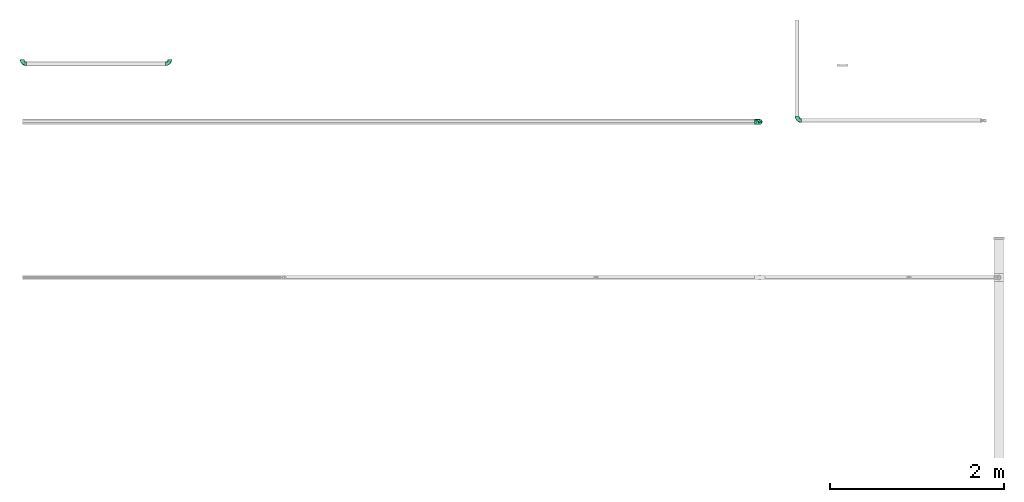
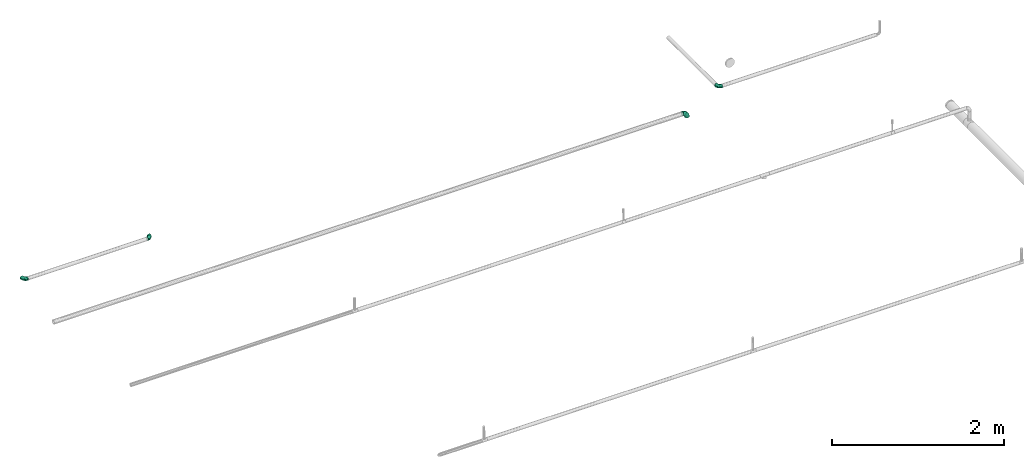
# One storey, part 7 of 14: 4 flow fittings.
"""IFC2X3 building model written with IfcOpenShell, lengths in millimetres."""

from ifc_helpers import new_model, entity, si_unit, converted_unit, derived_unit, direction, frame, origin_with_axes, place, context, subcontext, project, spatial, open_shell, surface_model, source, transform, mapped, type_object, element, save


model = new_model("IFC2X3")

# Units and contexts
model_context = context("Model", 3, precision=0.01, world=frame((0.0, 4.29681676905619e-09, 0.0)), true_north=direction((4.01073788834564e-13, 1.0)))
plan_context = context("Plan", 3, precision=0.01, world=frame((0.0, 4.29681676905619e-09, 0.0)), true_north=direction((4.01073788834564e-13, 1.0)))
body_context = subcontext(model_context, "Body", "Model", "MODEL_VIEW")
ifc_project = project(units=[converted_unit("PLANEANGLEUNIT", "DEGREE", entity("IfcPositiveLengthMeasure", 0.0174532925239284), si_unit("PLANEANGLEUNIT", "RADIAN"), dimensions=[0, 0, 0, 0, 0, 0, 0]), si_unit("AREAUNIT", "SQUARE_METRE"), si_unit("LENGTHUNIT", "METRE", prefix="MILLI"), si_unit("MASSUNIT", "GRAM", prefix="KILO"), si_unit("POWERUNIT", "WATT"), si_unit("PRESSUREUNIT", "PASCAL"), si_unit("FORCEUNIT", "NEWTON", prefix="KILO"), si_unit("ELECTRICVOLTAGEUNIT", "VOLT"), si_unit("ELECTRICCURRENTUNIT", "AMPERE"), si_unit("THERMODYNAMICTEMPERATUREUNIT", "DEGREE_CELSIUS"), si_unit("TIMEUNIT", "SECOND"), si_unit("VOLUMEUNIT", "CUBIC_METRE"), derived_unit("LINEARVELOCITYUNIT", [(si_unit("LENGTHUNIT", "METRE"), 1), (si_unit("TIMEUNIT", "SECOND"), -1)]), derived_unit("VOLUMETRICFLOWRATEUNIT", [(si_unit("VOLUMEUNIT", "CUBIC_METRE"), 1), (si_unit("TIMEUNIT", "SECOND"), -1)]), derived_unit("THERMALTRANSMITTANCEUNIT", [(si_unit("POWERUNIT", "WATT"), 1), (si_unit("THERMODYNAMICTEMPERATUREUNIT", "KELVIN"), -1), (si_unit("AREAUNIT", "SQUARE_METRE"), -1)]), derived_unit("SOUNDPRESSUREUNIT", [(si_unit("PRESSUREUNIT", "PASCAL"), 1)])], contexts=[model_context, plan_context])

# Site, building, storey
site_placement = place(None, frame((0.0, -4.29681676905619e-09, 0.0), z_axis=(0.0, 0.0, 1.0), x_axis=(1.0, 0.0, 0.0)))
site = spatial("IfcSite", under=ifc_project, at=site_placement, CompositionType="ELEMENT")
building_placement = place(site_placement, frame((0.0, 4.29681676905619e-09, 0.0), z_axis=(0.0, 0.0, 1.0), x_axis=(1.0, 0.0, 0.0)))
building = spatial("IfcBuilding", under=site, at=building_placement, Name="mc-building", CompositionType="ELEMENT")
storey_placement = place(building_placement, frame((0.0, 0.0, 204000.0), z_axis=(0.0, 0.0, 1.0), x_axis=(1.0, 0.0, 0.0)))
storey = spatial("IfcBuildingStorey", under=building, at=storey_placement, Name="Nivå D", CompositionType="ELEMENT", Elevation=204000.0)

# Flow fittings
pipe_fitting_type = type_object("IfcPipeFittingType", Name="magi_pipe_fe_elbow_short_001", PredefinedType="BEND")
shared_shape_1 = source(origin_with_axes(), body_context, "Body", "SurfaceModel", [
    surface_model("IfcShellBasedSurfaceModel", [(-48.4, 6.26342, -23.37541), (-48.4, 0.0, -24.2), (-48.4, 17.11198, -17.11198), (-48.4, 12.1, -20.95781), (-48.4, 23.37541, -6.26342), (-48.4, 20.95781, -12.1), (-48.4, -12.1, -20.95781), (-48.4, -17.11198, -17.11198), (-48.4, -20.95781, -12.1), (-48.4, -6.26342, -23.37541), (-48.4, -23.37541, -6.26342), (-48.4, -24.2, 0.0), (-48.4, -23.37541, 6.26342), (-48.4, 23.37541, 6.26342), (-48.4, 6.26342, 23.37541), (-48.4, 20.95781, 12.1), (-48.4, 17.11198, 17.11198), (-48.4, 12.1, 20.95781), (-48.4, -12.1, 20.95781), (-48.4, -20.95781, 12.1), (-48.4, -17.11198, 17.11198), (-48.4, -6.26342, 23.37541), (-48.4, 0.0, 24.2), (-48.4, 24.2, 0.0), (-17.11198, 48.4, -17.11198), (0.0, 48.4, -24.2), (-6.26342, 48.4, -23.37541), (-12.1, 48.4, -20.95781), (-20.95781, 48.4, -12.1), (-23.37541, 48.4, -6.26342), (12.1, 48.4, -20.95781), (20.95781, 48.4, -12.1), (17.11198, 48.4, -17.11198), (6.26342, 48.4, -23.37541), (23.37541, 48.4, -6.26342), (23.37541, 48.4, 6.26342), (24.2, 48.4, 0.0), (-23.37541, 48.4, 6.26342), (-6.26342, 48.4, 23.37541), (-17.11198, 48.4, 17.11198), (-20.95781, 48.4, 12.1), (-12.1, 48.4, 20.95781), (12.1, 48.4, 20.95781), (17.11198, 48.4, 17.11198), (20.95781, 48.4, 12.1), (0.0, 48.4, 24.2), (6.26342, 48.4, 23.37541), (-24.2, 48.4, 0.0), (-35.50368, -18.80076, 13.58523), (-31.77913, -13.9618, 18.03279), (-34.50859, -21.43683, 0.0), (-21.39243, -15.41147, 12.21413), (-32.16301, -21.12203, 7.54749), (21.12203, 32.16301, 7.54749), (17.07617, 18.95745, 6.20374), (18.67365, 20.61718, 0.0), (-23.65565, 38.62451, 10.51816), (-20.21592, 37.67665, 15.89859), (-35.56981, -9.15108, 21.77256), (-36.96985, -3.20584, 23.78612), (-33.88786, 3.70953, 24.15875), (-8.84062, -10.8048, 0.0), (-18.95745, -17.07617, 6.20374), (-20.61718, -18.67365, 0.0), (-18.69715, -5.87343, 20.10488), (-24.09336, -0.21717, 23.45593), (-2.08262, -4.09091, 10.90396), (-0.40561, 0.49936, 14.45569), (-8.22634, -5.79523, 14.90978), (-37.83027, 20.17367, 15.88169), (-8.41063, 23.79825, 24.15658), (-17.92529, 17.92529, 23.61199), (-14.40991, 10.5752, 24.07534), (-41.86919, 14.6551, 19.71874), (-9.03342, 41.7434, 22.66763), (-3.31671, 36.19978, 24.14056), (-38.63654, 23.65174, 10.51655), (-38.25939, 25.77657, 5.32075), (-30.0475, 30.0475, 9.04616), (-37.30448, 9.49113, 22.86036), (-6.31688, 16.20853, 23.76192), (-12.02449, 4.43954, 22.59792), (-2.47225, 13.07459, 22.23951), (-4.32281, 4.32281, 19.78555), (13.9618, 31.77913, 18.03279), (15.41147, 21.39243, 12.21413), (18.80076, 35.50367, 13.58523), (-25.72741, 16.42033, 22.38358), (-26.59277, 10.36599, 23.76692), (3.20584, 36.96985, 23.78612), (9.15107, 35.56981, 21.77256), (5.87343, 18.69715, 20.10488), (21.43683, 34.50859, 0.0), (-23.74657, 5.93004, 24.18967), (-22.40302, 25.55556, 19.88516), (-33.3245, 16.42738, 20.3789), (-25.47357, 39.04012, 5.19167), (-30.32947, 31.74105, 4.25904), (11.04589, 19.60124, 16.55181), (-27.44219, 36.3, 0.0), (-10.46605, 32.79159, 23.04712), (-13.80953, 25.05111, 23.26361), (-17.54489, 31.27863, 20.33941), (-19.27982, 23.42922, 22.01925), (-14.78447, 40.57947, 19.81913), (-19.60124, -11.04589, 16.55181), (-25.09785, 32.07921, 13.69695), (-25.5093, 27.02629, 17.14196), (-31.08127, 26.00324, 13.49448), (0.21717, 24.09336, 23.45593), (5.51075, 8.40547, 15.32867), (-11.48597, -10.80284, 11.35932), (1.43689, -3.14326, 6.54995), (7.34882, 4.31024, 8.4514), (7.50574, 2.51208, 3.62663), (12.46453, 10.09451, 5.71609), (12.1504, 12.55391, 10.15678), (-36.3, 27.44219, 0.0), (-6.52237, -9.62364, 7.02633), (2.93595, -2.93595, 0.0), (10.8048, 8.84062, 0.0), (-19.60124, -11.04589, -16.55181), (-31.77913, -13.9618, -18.03279), (-18.69715, -5.87343, -20.10488), (-21.39243, -15.41147, -12.21413), (-37.67665, 20.21591, -15.89859), (-40.57947, 14.78447, -19.81913), (-39.04012, 25.47357, -5.19167), (-32.16301, -21.12203, -7.54749), (-30.0475, 30.0475, -9.04616), (-38.62452, 23.65565, -10.51816), (-18.95745, -17.07617, -6.20374), (-23.42922, 19.27982, -22.01926), (-25.05111, 13.80953, -23.26361), (-31.27863, 17.54489, -20.33941), (-14.6551, 41.86919, -19.71874), (-20.17367, 37.83026, -15.88169), (9.15108, 35.56981, -21.77256), (5.87343, 18.69715, -20.10488), (0.21717, 24.09336, -23.45593), (-41.7434, 9.03342, -22.66763), (-35.50368, -18.80076, -13.58523), (-35.56981, -9.15108, -21.77256), (-16.42033, 25.72741, -22.38358), (-9.49113, 37.30447, -22.86036), (-10.36599, 26.59277, -23.76692), (-36.96985, -3.20584, -23.78612), (-23.79826, 8.41063, -24.15658), (-17.92529, 17.92529, -23.61199), (-10.5752, 14.40991, -24.07534), (-36.19978, 3.31671, -24.14056), (-25.77657, 38.25939, -5.32075), (-23.65174, 38.63654, -10.51655), (-32.79159, 10.46605, -23.04712), (-31.74105, 30.32946, -4.25904), (-5.93004, 23.74657, -24.18967), (-25.55556, 22.40302, -19.88516), (-16.42738, 33.3245, -20.3789), (3.20584, 36.96985, -23.78612), (-3.70953, 33.88785, -24.15875), (18.80076, 35.50367, -13.58523), (13.9618, 31.77913, -18.03279), (7.50574, 2.51208, -3.62663), (12.46453, 10.09451, -5.71609), (-16.20853, 6.31688, -23.76192), (-4.43954, 12.02449, -22.59792), (-13.07459, 2.47225, -22.23951), (15.41147, 21.39243, -12.21413), (21.12203, 32.16301, -7.54749), (17.07617, 18.95745, -6.20374), (-32.07921, 25.09785, -13.69695), (11.04589, 19.60124, -16.55181), (12.1504, 12.55391, -10.15678), (5.51075, 8.40547, -15.32867), (-27.02629, 25.5093, -17.14196), (-26.00324, 31.08127, -13.49448), (-24.09336, -0.21717, -23.45593), (-4.32281, 4.32281, -19.78555), (-8.22634, -5.79524, -14.90978), (-11.48597, -10.80284, -11.35931), (-0.40561, 0.49936, -14.45569), (-6.52237, -9.62364, -7.02632), (-2.08262, -4.09091, -10.90396), (7.34882, 4.31024, -8.4514), (1.43689, -3.14326, -6.54994)], [open_shell([[[0, 1, 2]], [[3, 0, 2]], [[4, 5, 2]], [[6, 2, 1]], [[4, 2, 6]], [[7, 8, 6]], [[1, 9, 6]], [[8, 10, 6]], [[6, 10, 4]], [[11, 12, 10]], [[13, 4, 10]], [[14, 13, 10]], [[15, 13, 16]], [[13, 14, 17]], [[16, 13, 17]], [[10, 18, 14]], [[19, 20, 12]], [[20, 10, 12]], [[21, 22, 18]], [[20, 18, 10]], [[18, 22, 14]], [[23, 4, 13]], [[24, 25, 26]], [[24, 26, 27]], [[24, 28, 29]], [[25, 24, 30]], [[30, 24, 29]], [[30, 31, 32]], [[30, 33, 25]], [[30, 34, 31]], [[29, 34, 30]], [[34, 35, 36]], [[34, 29, 37]], [[34, 37, 38]], [[39, 37, 40]], [[41, 38, 37]], [[41, 37, 39]], [[38, 42, 34]], [[35, 43, 44]], [[35, 34, 43]], [[42, 45, 46]], [[34, 42, 43]], [[38, 45, 42]], [[37, 29, 47]], [[20, 48, 49]], [[12, 11, 50]], [[51, 48, 52]], [[53, 54, 55]], [[48, 20, 19]], [[12, 52, 19]], [[40, 56, 57]], [[49, 18, 20]], [[49, 58, 18]], [[22, 59, 60]], [[61, 62, 63]], [[58, 64, 65]], [[66, 67, 68]], [[15, 16, 69]], [[70, 71, 72]], [[17, 73, 16]], [[21, 59, 22]], [[38, 74, 75]], [[22, 60, 14]], [[15, 69, 76]], [[16, 73, 69]], [[23, 13, 77]], [[13, 15, 76]], [[77, 76, 78]], [[14, 79, 17]], [[80, 81, 82]], [[68, 83, 64]], [[84, 43, 42]], [[85, 86, 84]], [[87, 79, 88]], [[18, 58, 21]], [[45, 89, 46]], [[53, 35, 44]], [[45, 38, 75]], [[84, 90, 91]], [[44, 86, 53]], [[92, 35, 53]], [[86, 44, 43]], [[90, 42, 46]], [[53, 55, 92]], [[88, 93, 72]], [[54, 53, 85]], [[87, 94, 95]], [[78, 96, 97]], [[98, 84, 91]], [[99, 96, 47]], [[79, 14, 60]], [[96, 78, 56]], [[62, 52, 63]], [[57, 39, 40]], [[100, 70, 75]], [[101, 102, 103]], [[12, 50, 52]], [[104, 41, 39]], [[74, 38, 41]], [[57, 102, 104]], [[105, 64, 49]], [[90, 84, 42]], [[40, 37, 56]], [[56, 106, 57]], [[102, 57, 107]], [[95, 107, 69]], [[76, 108, 78]], [[100, 101, 70]], [[89, 75, 109]], [[64, 58, 49]], [[63, 52, 50]], [[59, 58, 65]], [[105, 49, 51]], [[64, 83, 81]], [[89, 90, 46]], [[36, 35, 92]], [[109, 82, 91]], [[109, 91, 90]], [[91, 83, 110]], [[111, 68, 105]], [[66, 68, 111]], [[62, 51, 52]], [[66, 112, 113]], [[114, 115, 113]], [[98, 85, 84]], [[52, 48, 19]], [[49, 48, 51]], [[84, 86, 43]], [[53, 86, 85]], [[88, 79, 60]], [[73, 79, 95]], [[96, 56, 37]], [[78, 108, 106]], [[87, 103, 94]], [[100, 74, 104]], [[108, 69, 107]], [[78, 97, 77]], [[88, 72, 71]], [[109, 75, 70]], [[81, 72, 65]], [[70, 72, 80]], [[75, 89, 45]], [[90, 89, 109]], [[58, 59, 21]], [[60, 59, 65]], [[67, 83, 68]], [[110, 113, 116]], [[88, 60, 93]], [[87, 88, 71]], [[103, 87, 71]], [[79, 87, 95]], [[101, 103, 71]], [[94, 103, 102]], [[47, 96, 37]], [[96, 99, 97]], [[99, 117, 97]], [[97, 117, 77]], [[23, 77, 117]], [[13, 76, 77]], [[60, 65, 93]], [[65, 72, 93]], [[70, 101, 71]], [[102, 101, 100]], [[69, 108, 76]], [[106, 108, 107]], [[57, 106, 107]], [[78, 106, 56]], [[57, 104, 39]], [[100, 104, 102]], [[102, 107, 94]], [[95, 94, 107]], [[64, 81, 65]], [[82, 81, 83]], [[91, 82, 83]], [[80, 82, 109]], [[70, 80, 109]], [[81, 80, 72]], [[79, 73, 17]], [[69, 73, 95]], [[104, 74, 41]], [[75, 74, 100]], [[62, 61, 118]], [[111, 62, 118]], [[113, 115, 116]], [[119, 118, 61]], [[111, 105, 51]], [[113, 112, 114]], [[120, 55, 54]], [[68, 64, 105]], [[91, 110, 98]], [[116, 98, 110]], [[62, 111, 51]], [[66, 111, 118]], [[112, 66, 118]], [[67, 113, 110]], [[118, 119, 112]], [[114, 112, 119]], [[119, 120, 114]], [[115, 120, 54]], [[120, 115, 114]], [[116, 54, 85]], [[54, 116, 115]], [[116, 85, 98]], [[113, 67, 66]], [[83, 67, 110]], [[121, 122, 123]], [[122, 121, 124]], [[5, 125, 2]], [[2, 126, 3]], [[117, 127, 23]], [[50, 10, 128]], [[127, 129, 130]], [[128, 131, 63]], [[132, 133, 134]], [[24, 135, 136]], [[137, 138, 139]], [[3, 140, 0]], [[128, 8, 141]], [[142, 6, 9]], [[128, 63, 50]], [[5, 4, 130]], [[8, 7, 141]], [[143, 144, 145]], [[146, 9, 1]], [[147, 148, 149]], [[8, 128, 10]], [[124, 141, 122]], [[150, 1, 0]], [[151, 152, 129]], [[125, 134, 126]], [[153, 147, 150]], [[127, 154, 129]], [[145, 155, 149]], [[47, 29, 151]], [[143, 156, 157]], [[152, 29, 28]], [[25, 158, 159]], [[122, 7, 6]], [[24, 27, 135]], [[144, 27, 26]], [[32, 160, 161]], [[25, 33, 158]], [[120, 162, 163]], [[130, 125, 5]], [[24, 136, 28]], [[0, 140, 150]], [[30, 161, 137]], [[142, 122, 6]], [[25, 159, 26]], [[164, 165, 166]], [[31, 160, 32]], [[161, 30, 32]], [[167, 160, 168]], [[131, 128, 124]], [[36, 92, 34]], [[34, 92, 168]], [[169, 168, 55]], [[34, 168, 31]], [[144, 26, 159]], [[130, 170, 125]], [[171, 172, 173]], [[136, 152, 28]], [[30, 137, 33]], [[122, 142, 123]], [[134, 125, 174]], [[157, 174, 136]], [[152, 175, 129]], [[153, 133, 147]], [[146, 150, 176]], [[146, 142, 9]], [[11, 10, 50]], [[176, 166, 123]], [[176, 123, 142]], [[123, 177, 178]], [[138, 137, 161]], [[55, 168, 92]], [[158, 137, 139]], [[171, 161, 167]], [[138, 177, 165]], [[177, 138, 173]], [[124, 121, 179]], [[173, 180, 177]], [[61, 131, 181]], [[182, 181, 179]], [[169, 167, 168]], [[122, 141, 7]], [[128, 141, 124]], [[168, 160, 31]], [[161, 160, 167]], [[145, 144, 159]], [[135, 144, 157]], [[127, 130, 4]], [[129, 175, 170]], [[143, 132, 156]], [[153, 140, 126]], [[175, 136, 174]], [[129, 154, 151]], [[145, 149, 148]], [[176, 150, 147]], [[165, 149, 139]], [[147, 149, 164]], [[150, 146, 1]], [[142, 146, 176]], [[137, 158, 33]], [[159, 158, 139]], [[171, 138, 161]], [[183, 182, 180]], [[145, 159, 155]], [[143, 145, 148]], [[132, 143, 148]], [[144, 143, 157]], [[133, 132, 148]], [[156, 132, 134]], [[23, 127, 4]], [[127, 117, 154]], [[117, 99, 154]], [[154, 99, 151]], [[47, 151, 99]], [[29, 152, 151]], [[159, 139, 155]], [[139, 149, 155]], [[147, 133, 148]], [[134, 133, 153]], [[136, 175, 152]], [[170, 175, 174]], [[125, 170, 174]], [[129, 170, 130]], [[125, 126, 2]], [[153, 126, 134]], [[134, 174, 156]], [[157, 156, 174]], [[138, 165, 139]], [[166, 165, 177]], [[123, 166, 177]], [[164, 166, 176]], [[147, 164, 176]], [[165, 164, 149]], [[144, 135, 27]], [[136, 135, 157]], [[126, 140, 3]], [[150, 140, 153]], [[179, 131, 124]], [[181, 119, 61]], [[63, 131, 61]], [[169, 163, 172]], [[169, 55, 120]], [[123, 178, 121]], [[179, 121, 178]], [[172, 171, 167]], [[173, 138, 171]], [[182, 179, 178]], [[131, 179, 181]], [[180, 182, 178]], [[163, 162, 183]], [[120, 119, 162]], [[172, 163, 183]], [[120, 163, 169]], [[173, 172, 183]], [[169, 172, 167]], [[177, 180, 178]], [[183, 180, 173]], [[184, 181, 182]], [[184, 182, 183]], [[119, 181, 184]], [[119, 184, 162]], [[162, 184, 183]]])]),
])
for number, where, z_axis, x_axis, name in (
    (1, (597993.8, 699262.46783, 6142.65517000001), (0.0, 0.0, 1.0), (0.0, -1.0, 0.0), "magi_pipe_fe_elbow_short_001"),
    (2, (599693.8, 699262.46783, 6142.65517000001), (0.0, 0.0, 1.0), (1.0, 0.0, 0.0), "magi_pipe_fe_elbow_short_001"),
    (3, (606912.81082, 698608.74775, 6142.66949), (-9.999999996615e-07, -2.5999999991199e-05, 0.9999999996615), (-1.999999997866e-12, -0.999999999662, -2.5999999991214e-05), "magi_pipe_fe_elbow_short_001"),
):
    element("IfcFlowFitting", number, at=place(storey_placement, frame(where, z_axis=z_axis, x_axis=x_axis)), inside=storey, type_object=pipe_fitting_type, Name=name, context=body_context, shape_type="MappedRepresentation", body=[
        mapped(shared_shape_1, transform((0.0, 0.0, 0.0), scale=1.0)),
    ])
shared_shape_2 = source(origin_with_axes(), body_context, "Body", "SurfaceModel", [
    surface_model("IfcShellBasedSurfaceModel", [(-60.4, 15.1, -26.15397), (-60.4, 7.81634, -29.17096), (-60.4, 0.0, -30.2), (-60.4, -21.35462, -21.35462), (-60.4, 26.15397, -15.1), (-60.4, 21.35462, -21.35462), (-60.4, 29.17096, -7.81634), (-60.4, -15.1, -26.15397), (-60.4, -7.81634, -29.17096), (-60.4, -26.15397, -15.1), (-60.4, -29.17096, -7.81634), (-60.4, -30.2, 0.0), (-60.4, -29.17096, 7.81634), (-60.4, 29.17096, 7.81634), (-60.4, -21.35462, 21.35462), (-60.4, 26.15397, 15.1), (-60.4, 21.35462, 21.35462), (-60.4, 7.81634, 29.17096), (-60.4, 15.1, 26.15397), (-60.4, -26.15397, 15.1), (-60.4, -7.81634, 29.17096), (-60.4, 0.0, 30.2), (-60.4, -15.1, 26.15397), (-60.4, 30.2, 0.0), (0.0, 60.4, -30.2), (-7.81634, 60.4, -29.17096), (-15.1, 60.4, -26.15397), (-26.15397, 60.4, -15.1), (-29.17096, 60.4, -7.81634), (-21.35462, 60.4, -21.35462), (29.17096, 60.4, -7.81634), (7.81634, 60.4, -29.17096), (21.35462, 60.4, -21.35462), (15.1, 60.4, -26.15397), (26.15397, 60.4, -15.1), (29.17096, 60.4, 7.81634), (30.2, 60.4, 0.0), (-29.17096, 60.4, 7.81634), (21.35462, 60.4, 21.35462), (-21.35462, 60.4, 21.35462), (-26.15397, 60.4, 15.1), (-15.1, 60.4, 26.15397), (-7.81634, 60.4, 29.17096), (26.15397, 60.4, 15.1), (15.1, 60.4, 26.15397), (0.0, 60.4, 30.2), (7.81634, 60.4, 29.17096), (-30.2, 60.4, 0.0), (-40.79975, -26.48639, 9.49143), (-44.2927, -23.46036, 16.95222), (-32.40306, -25.76572, 0.0), (-45.54716, -27.84754, 0.0), (-7.73382, -10.42985, 11.64553), (-2.102, -8.06735, 6.35117), (1.74449, -1.74448, 12.51332), (-46.13593, -4.00068, 29.68351), (-42.2898, 4.62925, 30.14853), (10.31662, 7.37496, 11.34434), (18.44156, 24.57514, 15.02148), (7.07276, 10.95732, 19.27498), (-30.06693, -0.27102, 29.27145), (-44.17726, -11.39441, 27.16031), (-23.4551, -7.13383, 25.24246), (-38.74025, -17.25266, 22.43475), (-27.059, -23.14697, 6.2131), (-19.77486, -19.33133, 0.0), (-10.95732, -7.07276, 19.27498), (-5.39458, 5.39458, 24.69106), (-29.52069, 48.20084, 13.12597), (-25.22813, 47.01796, 19.8404), (-11.27311, 52.093, 28.2877), (-4.13904, 45.17494, 30.12582), (-46.55352, 11.8443, 28.52822), (-7.88305, 20.22717, 29.65331), (-15.00576, 5.54025, 28.20072), (-3.0852, 16.31623, 27.75343), (-52.24998, 18.2886, 24.60768), (-10.49591, 29.69865, 30.14582), (-22.36958, 22.36958, 29.4662), (-17.98262, 13.19715, 30.04443), (-47.74519, 32.16745, 6.63994), (-48.21585, 29.51581, 13.12396), (-37.49729, 37.49729, 11.28901), (-47.20967, 25.1754, 19.81929), (17.25266, 38.74025, 22.43475), (-31.32046, 40.03273, 17.09289), (11.39441, 44.17725, 27.16031), (23.46036, 44.2927, 16.95222), (26.48639, 40.79975, 9.49143), (-7.14666, -12.89694, 0.0), (-14.66463, -16.61192, 7.82462), (4.00068, 46.13593, 29.68351), (-33.18602, 12.93608, 29.65955), (-29.63414, 7.40029, 30.18711), (19.33133, 19.77486, 0.0), (23.14697, 27.059, 6.2131), (16.61192, 14.66463, 7.82462), (27.84754, 45.54716, 0.0), (-32.10611, 20.49149, 27.93323), (-24.57514, -18.44156, 15.02148), (-21.89487, 39.03366, 25.38224), (-18.45005, 50.6405, 24.73297), (-31.78933, 48.71949, 6.47886), (-37.84917, 39.61073, 5.315), (13.91334, 24.32737, 20.46816), (7.13383, 23.4551, 25.24246), (-34.24603, 45.3, 0.0), (-27.95749, 31.89166, 24.81537), (-41.58677, 20.50028, 25.43151), (-0.46157, 0.46157, 17.84239), (-17.23338, 31.26213, 29.03145), (-24.05994, 29.23812, 27.47858), (-13.06094, 40.92174, 28.76128), (-31.83392, 33.72702, 21.39203), (-38.78737, 32.45032, 16.84022), (0.27102, 30.06693, 29.27145), (-24.21469, -13.23741, 21.05734), (8.23548, 2.19333, 6.02161), (25.76572, 32.40306, 0.0), (12.89694, 7.14666, 0.0), (-45.3, 34.24603, 0.0), (2.87514, -2.87514, 0.0), (-44.53432, 26.00869, -20.11577), (-48.18822, 29.5248, -13.12766), (-24.67192, -7.62159, -25.33714), (-26.22398, -0.37671, -28.72374), (-12.13397, -0.50536, -24.74577), (-47.80891, 3.81859, -30.10171), (-44.05719, -27.03585, -9.84546), (-37.94552, -22.39569, -16.35738), (-28.81663, -22.64668, -10.132), (-43.93799, 12.32789, -28.63778), (-33.27, 7.1392, -30.19348), (-26.0087, 44.53432, -20.11577), (-48.89164, 31.68872, -6.60822), (-18.95522, 47.41145, -24.9828), (-12.32789, 43.93799, -28.63778), (-38.42778, 38.42778, -7.21049), (18.04263, 43.69152, -22.80146), (10.42233, 38.24532, -26.85918), (11.90576, 51.00473, -27.48545), (-5.88381, -10.62327, -7.95335), (-5.9694, -7.83116, -13.76182), (3.24899, -2.56331, -7.96861), (-17.62229, 16.32998, -30.18286), (-28.62959, 17.86952, -29.30113), (-47.41145, 18.95522, -24.98279), (-50.84455, -24.04089, -17.54629), (-29.38053, 34.30665, -22.74674), (-27.91099, 27.91099, -26.51666), (-36.91219, 25.51094, -23.99233), (2.63361, -0.55507, -12.94367), (-43.69152, -18.04263, -22.80146), (22.39569, 37.94552, -16.35738), (27.03585, 44.05719, -9.84546), (22.64668, 28.81663, -10.132), (-51.00473, -11.90576, -27.48545), (3.80785, 44.49426, -29.64782), (-19.0921, -14.69952, -16.47487), (-22.5489, -12.31934, -21.1263), (-10.94772, -7.46239, -18.88204), (-32.95885, -13.78948, -23.71249), (-38.24532, -10.42233, -26.85918), (-44.49427, -3.80785, -29.64782), (-22.6301, 37.15314, -25.58239), (-31.68872, 48.89164, -6.60822), (-3.8186, 47.80891, -30.10171), (-10.66133, 10.66133, -28.51691), (0.37671, 26.22398, -28.72374), (1.27136, 14.18619, -25.18541), (-29.5248, 48.18821, -13.12766), (-36.27113, 36.27113, -14.88553), (24.04089, 50.84455, -17.54629), (17.50188, 24.2636, -16.21902), (9.73525, 11.44907, -16.75087), (12.31934, 22.5489, -21.1263), (6.24176, 25.78208, -26.38266), (-7.1392, 33.27, -30.19348), (-36.7166, 19.4356, -27.21946), (-18.00754, 29.38864, -29.15505), (-0.28629, 0.28629, -17.49884), (-13.98848, -16.88492, -5.19509), (15.48569, 15.00432, -11.24742), (16.88492, 13.98848, -5.19509), (3.55782, 9.20508, -21.18402), (-15.00432, -15.48569, -11.24742)], [open_shell([[[0, 1, 2]], [[0, 2, 3]], [[4, 0, 3]], [[5, 0, 4]], [[6, 4, 3]], [[7, 3, 8]], [[3, 2, 8]], [[9, 10, 3]], [[3, 10, 6]], [[11, 12, 10]], [[13, 6, 10]], [[13, 10, 14]], [[15, 13, 16]], [[17, 18, 16]], [[13, 17, 16]], [[17, 13, 14]], [[19, 14, 12]], [[12, 14, 10]], [[20, 21, 22]], [[17, 14, 22]], [[17, 22, 21]], [[13, 23, 6]], [[24, 25, 26]], [[24, 26, 27]], [[27, 28, 24]], [[27, 26, 29]], [[24, 28, 30]], [[31, 32, 33]], [[31, 24, 32]], [[32, 30, 34]], [[24, 30, 32]], [[30, 35, 36]], [[30, 28, 37]], [[38, 30, 37]], [[39, 37, 40]], [[39, 41, 42]], [[39, 42, 37]], [[38, 37, 42]], [[35, 38, 43]], [[30, 38, 35]], [[44, 45, 46]], [[44, 38, 42]], [[45, 44, 42]], [[28, 47, 37]], [[48, 49, 19]], [[50, 48, 51]], [[52, 53, 54]], [[12, 48, 19]], [[12, 51, 48]], [[21, 55, 56]], [[19, 49, 14]], [[57, 58, 59]], [[60, 61, 62]], [[63, 22, 14]], [[63, 61, 22]], [[64, 50, 65]], [[62, 66, 67]], [[40, 68, 69]], [[42, 70, 71]], [[17, 72, 18]], [[73, 74, 75]], [[18, 76, 16]], [[20, 55, 21]], [[77, 78, 79]], [[80, 81, 82]], [[15, 83, 81]], [[84, 38, 44]], [[23, 13, 80]], [[13, 15, 81]], [[68, 85, 69]], [[83, 15, 16]], [[21, 56, 17]], [[44, 86, 84]], [[16, 76, 83]], [[87, 58, 88]], [[40, 37, 68]], [[89, 90, 65]], [[45, 91, 46]], [[65, 90, 64]], [[45, 42, 71]], [[92, 93, 79]], [[88, 35, 43]], [[43, 38, 87]], [[87, 88, 43]], [[94, 95, 96]], [[88, 97, 35]], [[98, 72, 92]], [[49, 99, 63]], [[69, 100, 101]], [[82, 102, 103]], [[104, 105, 59]], [[106, 102, 47]], [[98, 107, 108]], [[102, 82, 68]], [[86, 44, 46]], [[69, 39, 40]], [[109, 54, 57]], [[110, 100, 111]], [[22, 61, 20]], [[101, 41, 39]], [[70, 42, 41]], [[112, 77, 71]], [[84, 86, 105]], [[96, 95, 58]], [[100, 69, 113]], [[72, 17, 56]], [[108, 113, 83]], [[81, 114, 82]], [[112, 110, 77]], [[91, 71, 115]], [[62, 61, 63]], [[55, 61, 60]], [[116, 99, 66]], [[74, 62, 67]], [[91, 86, 46]], [[105, 86, 115]], [[75, 105, 115]], [[109, 67, 66]], [[59, 105, 67]], [[48, 64, 99]], [[99, 49, 48]], [[63, 14, 49]], [[38, 84, 87]], [[58, 87, 84]], [[92, 72, 56]], [[76, 72, 108]], [[102, 68, 37]], [[82, 114, 85]], [[98, 111, 107]], [[112, 70, 101]], [[114, 83, 113]], [[82, 103, 80]], [[92, 79, 78]], [[115, 71, 77]], [[74, 79, 60]], [[77, 79, 73]], [[71, 91, 45]], [[86, 91, 115]], [[61, 55, 20]], [[56, 55, 60]], [[57, 54, 117]], [[104, 59, 58]], [[116, 66, 62]], [[52, 99, 90]], [[12, 11, 51]], [[97, 88, 118]], [[97, 36, 35]], [[53, 90, 89]], [[90, 53, 52]], [[94, 96, 119]], [[88, 95, 118]], [[117, 54, 53]], [[92, 56, 93]], [[98, 92, 78]], [[111, 98, 78]], [[72, 98, 108]], [[110, 111, 78]], [[107, 111, 100]], [[47, 102, 37]], [[102, 106, 103]], [[106, 120, 103]], [[103, 120, 80]], [[23, 80, 120]], [[13, 81, 80]], [[56, 60, 93]], [[60, 79, 93]], [[117, 121, 119]], [[121, 117, 53]], [[53, 89, 121]], [[119, 96, 117]], [[117, 96, 57]], [[77, 110, 78]], [[100, 110, 112]], [[83, 114, 81]], [[85, 114, 113]], [[69, 85, 113]], [[82, 85, 68]], [[109, 52, 54]], [[99, 52, 66]], [[69, 101, 39]], [[112, 101, 100]], [[100, 113, 107]], [[108, 107, 113]], [[62, 74, 60]], [[75, 74, 67]], [[105, 75, 67]], [[73, 75, 115]], [[77, 73, 115]], [[74, 73, 79]], [[99, 64, 90]], [[50, 64, 48]], [[118, 95, 94]], [[58, 95, 88]], [[58, 57, 96]], [[109, 57, 59]], [[72, 76, 18]], [[83, 76, 108]], [[101, 70, 41]], [[71, 70, 112]], [[58, 84, 104]], [[105, 104, 84]], [[67, 109, 59]], [[52, 109, 66]], [[62, 63, 116]], [[99, 116, 63]], [[122, 4, 123]], [[124, 125, 126]], [[2, 1, 127]], [[128, 129, 130]], [[127, 131, 132]], [[27, 29, 133]], [[120, 134, 23]], [[135, 26, 136]], [[123, 134, 137]], [[138, 139, 140]], [[122, 5, 4]], [[141, 142, 143]], [[144, 132, 145]], [[131, 0, 146]], [[128, 9, 147]], [[148, 149, 150]], [[128, 51, 10]], [[142, 151, 143]], [[152, 3, 7]], [[153, 154, 155]], [[156, 152, 7]], [[31, 157, 24]], [[158, 159, 160]], [[147, 9, 3]], [[129, 152, 161]], [[156, 7, 8]], [[162, 163, 125]], [[154, 34, 30]], [[120, 106, 137]], [[149, 148, 164]], [[47, 28, 165]], [[163, 8, 2]], [[4, 6, 123]], [[25, 166, 136]], [[167, 168, 169]], [[170, 133, 171]], [[25, 24, 166]], [[33, 32, 138]], [[157, 31, 140]], [[28, 27, 170]], [[32, 34, 172]], [[26, 135, 29]], [[132, 131, 145]], [[31, 33, 140]], [[173, 174, 175]], [[169, 168, 176]], [[25, 136, 26]], [[175, 138, 173]], [[168, 177, 157]], [[163, 162, 156]], [[153, 172, 154]], [[9, 128, 10]], [[154, 97, 118]], [[131, 178, 145]], [[0, 5, 146]], [[175, 139, 138]], [[155, 118, 94]], [[131, 1, 0]], [[146, 178, 131]], [[170, 137, 165]], [[149, 179, 145]], [[171, 133, 148]], [[160, 180, 142]], [[65, 181, 89]], [[170, 165, 28]], [[137, 171, 123]], [[172, 138, 32]], [[138, 153, 173]], [[168, 157, 139]], [[166, 157, 177]], [[176, 175, 169]], [[168, 167, 144]], [[154, 30, 97]], [[155, 182, 173]], [[162, 124, 161]], [[147, 152, 129]], [[127, 163, 2]], [[132, 144, 125]], [[132, 125, 163]], [[125, 167, 126]], [[129, 158, 130]], [[30, 36, 97]], [[143, 182, 183]], [[169, 126, 167]], [[5, 122, 146]], [[178, 150, 149]], [[136, 179, 164]], [[133, 29, 135]], [[123, 6, 134]], [[122, 123, 171]], [[133, 170, 27]], [[137, 170, 171]], [[184, 175, 174]], [[180, 160, 126]], [[126, 169, 184]], [[126, 159, 124]], [[51, 128, 50]], [[51, 11, 10]], [[131, 127, 1]], [[163, 127, 132]], [[157, 166, 24]], [[136, 166, 177]], [[164, 179, 149]], [[144, 167, 125]], [[179, 144, 145]], [[168, 144, 177]], [[136, 177, 179]], [[144, 179, 177]], [[141, 121, 89]], [[89, 181, 141]], [[154, 118, 155]], [[183, 155, 94]], [[143, 183, 119]], [[119, 183, 94]], [[155, 183, 182]], [[181, 130, 185]], [[50, 128, 130]], [[130, 181, 65]], [[50, 130, 65]], [[141, 181, 185]], [[142, 141, 185]], [[143, 121, 141]], [[158, 160, 142]], [[142, 180, 151]], [[158, 142, 185]], [[126, 160, 159]], [[130, 158, 185]], [[129, 159, 158]], [[23, 134, 6]], [[120, 137, 134]], [[137, 106, 165]], [[47, 165, 106]], [[174, 151, 180]], [[182, 143, 151]], [[150, 146, 122]], [[149, 145, 178]], [[146, 150, 178]], [[122, 171, 148]], [[148, 150, 122]], [[164, 133, 135]], [[133, 164, 148]], [[164, 135, 136]], [[138, 140, 33]], [[157, 140, 139]], [[154, 172, 34]], [[138, 172, 153]], [[163, 156, 8]], [[152, 156, 162]], [[152, 147, 3]], [[128, 147, 129]], [[155, 173, 153]], [[174, 173, 182]], [[151, 174, 182]], [[174, 180, 184]], [[126, 184, 180]], [[175, 184, 169]], [[168, 139, 176]], [[175, 176, 139]], [[161, 124, 159]], [[125, 124, 162]], [[129, 161, 159]], [[162, 161, 152]], [[143, 119, 121]]])]),
])
flow_fitting_placement = place(storey_placement, frame((606484.07576, 698594.06783, 5945.0), z_axis=(0.0, -1.0, 0.0), x_axis=(0.0, 0.0, 1.0)))
element("IfcFlowFitting", 4, at=flow_fitting_placement, inside=storey, type_object=pipe_fitting_type, Name="magi_pipe_fe_elbow_short_001", context=body_context, shape_type="MappedRepresentation", body=[
    mapped(shared_shape_2, transform((0.0, 0.0, 0.0), scale=1.0)),
])

save(model, "model.ifc")
